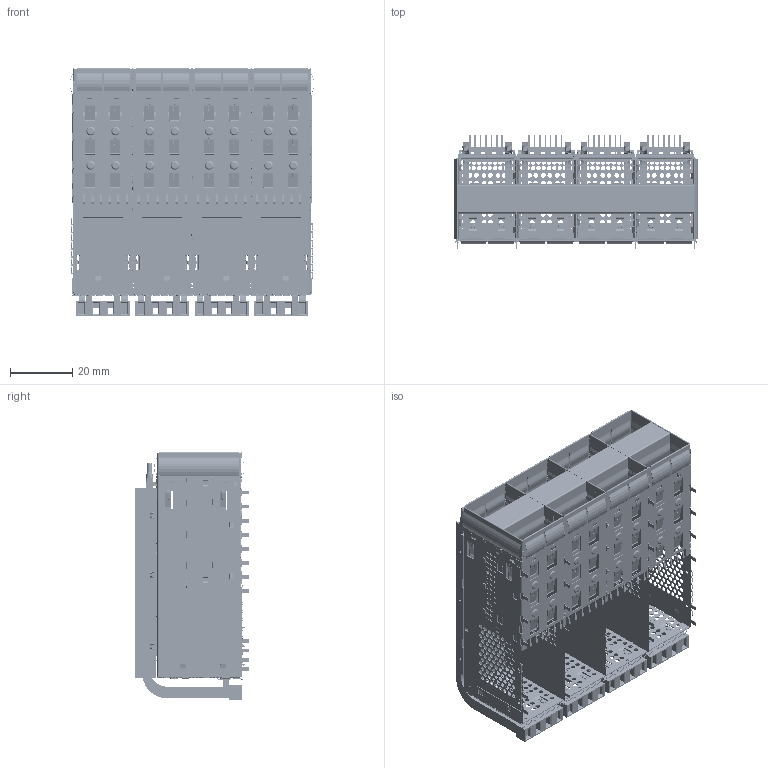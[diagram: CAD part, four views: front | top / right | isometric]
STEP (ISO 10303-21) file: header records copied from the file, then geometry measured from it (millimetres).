
FILE_DESCRIPTION((''),'2;1');
FILE_NAME('PRT0001','2026-06-26T16:43:21',('39002408'),(''),'CREO PARAMETRIC BY PTC INC, 2019471','CREO PARAMETRIC BY PTC INC, 2019471','');
FILE_SCHEMA(('CONFIG_CONTROL_DESIGN'));
Products named in the file (1): PRT0001
Bounding box: 78.26 x 36.65 x 79.51 mm (x, y, z)
Surface area: 118344.7 mm2
Topology: 5 solids, 6 shells, 18424 faces, 54226 edges, 34615 vertices
Faces by surface type: cylinder 9104, plane 8031, bspline 673, torus 528, cone 80, extrusion 8
Entity records: 650671 total; most frequent: CARTESIAN_POINT 146329, ORIENTED_EDGE 108326, DIRECTION 105418, EDGE_CURVE 54226, AXIS2_PLACEMENT_3D 36649, VERTEX_POINT 34615, VECTOR 32120, LINE 32112
